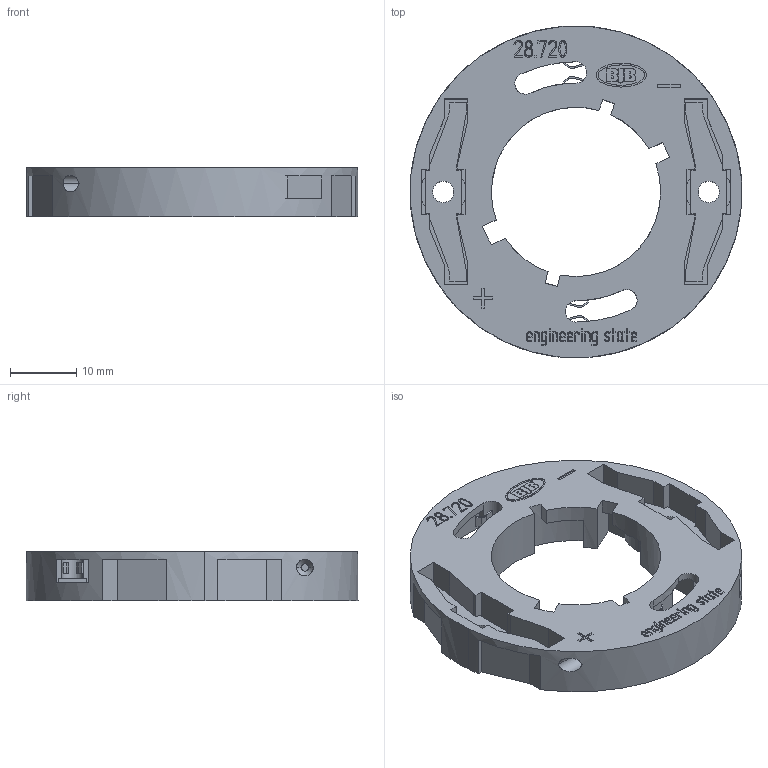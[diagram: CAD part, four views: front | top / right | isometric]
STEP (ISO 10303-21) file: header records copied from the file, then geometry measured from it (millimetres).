
FILE_DESCRIPTION((' '),'1');
FILE_NAME('01VYU02Y02.stp','2014-09-08 T08:09:23',(''),(''),'STEP Interface 2013.192 by CT CoreTechnologie','3D_Evolution2013.192 by CT CoreTechnologie','');
FILE_SCHEMA(('AP203_CONFIGURATION_CONTROLLED_3D_DESIGN_OF_MECHANICAL_PARTS_AND_ASSEMBLIES_MIM_LF'));
Length unit declared in the file: millimetre
Products named in the file (1): 01VYU02Y02
Bounding box: 50 x 50 x 7.45 mm (x, y, z)
Volume: 5055.3 mm3; surface area: 8132.7 mm2
Topology: 1 solids, 1 shells, 613 faces, 1650 edges, 1090 vertices
Faces by surface type: plane 469, cylinder 75, bspline 69
Entity records: 26196 total; most frequent: CARTESIAN_POINT 6123, ORIENTED_EDGE 3300, DIRECTION 2816, EDGE_CURVE 1650, VECTOR 1318, LINE 1318, VERTEX_POINT 1090, AXIS2_PLACEMENT_3D 749
